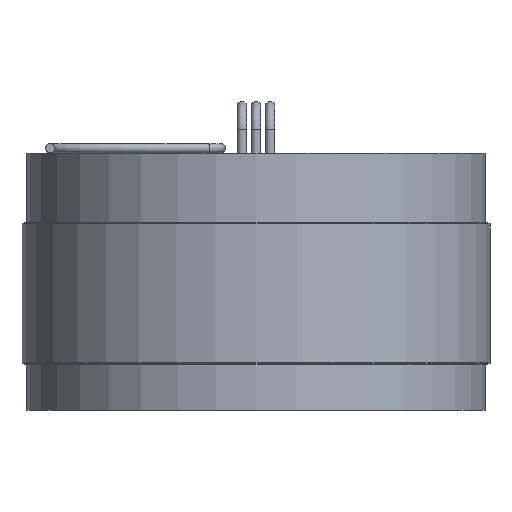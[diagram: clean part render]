
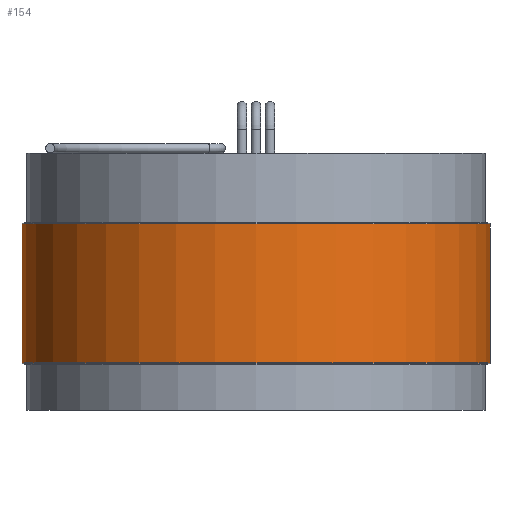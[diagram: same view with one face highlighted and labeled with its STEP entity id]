
A CAD part, front view. The second image highlights one B-rep face of the part: STEP entity #154.
In plain terms, the highlighted cylindrical face has radius 63.5 mm (diameter 127 mm), a full revolution.
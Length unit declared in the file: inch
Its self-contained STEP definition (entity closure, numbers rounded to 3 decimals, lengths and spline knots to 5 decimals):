
#61 = DIRECTION ( 'NONE',  ( 1., 0., 0. ) ) ;
#82 = DIRECTION ( 'NONE',  ( 1., 0., 0. ) ) ;
#83 = DIRECTION ( 'NONE',  ( 1., 0., 0. ) ) ;
#103 = EDGE_LOOP ( 'NONE', ( #726 ) ) ;
#154 = ADVANCED_FACE ( 'NONE', ( #680, #1304 ), #1321, .T. ) ;
#203 = DIRECTION ( 'NONE',  ( 0., 0., 1. ) ) ;
#438 = AXIS2_PLACEMENT_3D ( 'NONE', #746, #203, #83 ) ;
#456 = CARTESIAN_POINT ( 'NONE',  ( 0., 0., -0.74213 ) ) ;
#598 = CIRCLE ( 'NONE', #765, 2.5 ) ;
#631 = CARTESIAN_POINT ( 'NONE',  ( 0., 0., 0.74213 ) ) ;
#676 = CIRCLE ( 'NONE', #969, 2.5 ) ;
#680 = FACE_OUTER_BOUND ( 'NONE', #1256, .T. ) ;
#688 = EDGE_CURVE ( 'NONE', #1230, #1230, #598, .T. ) ;
#726 = ORIENTED_EDGE ( 'NONE', *, *, #845, .T. ) ;
#728 = DIRECTION ( 'NONE',  ( 0., 0., 1. ) ) ;
#746 = CARTESIAN_POINT ( 'NONE',  ( 0., 0., -0.76 ) ) ;
#765 = AXIS2_PLACEMENT_3D ( 'NONE', #631, #728, #61 ) ;
#813 = ORIENTED_EDGE ( 'NONE', *, *, #688, .F. ) ;
#845 = EDGE_CURVE ( 'NONE', #989, #989, #676, .T. ) ;
#969 = AXIS2_PLACEMENT_3D ( 'NONE', #456, #1296, #82 ) ;
#989 = VERTEX_POINT ( 'NONE', #1391 ) ;
#1230 = VERTEX_POINT ( 'NONE', #1253 ) ;
#1253 = CARTESIAN_POINT ( 'NONE',  ( 2.5, 0., 0.74213 ) ) ;
#1256 = EDGE_LOOP ( 'NONE', ( #813 ) ) ;
#1296 = DIRECTION ( 'NONE',  ( 0., 0., 1. ) ) ;
#1304 = FACE_OUTER_BOUND ( 'NONE', #103, .T. ) ;
#1321 = CYLINDRICAL_SURFACE ( 'NONE', #438, 2.5 ) ;
#1391 = CARTESIAN_POINT ( 'NONE',  ( 2.5, 0., -0.74213 ) ) ;
